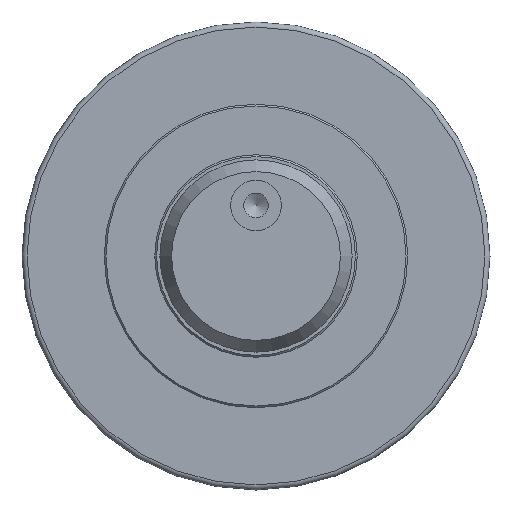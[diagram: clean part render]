
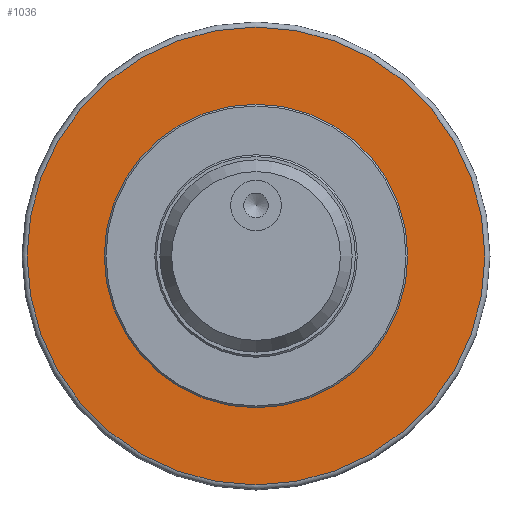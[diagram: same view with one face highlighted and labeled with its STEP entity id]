
A CAD part, left-side view. The second image highlights one B-rep face of the part: STEP entity #1036.
In plain terms, the highlighted planar face has unit normal (-1, 0, 0).
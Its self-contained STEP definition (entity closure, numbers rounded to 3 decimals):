
#29=FACE_BOUND('',#176,.T.);
#45=PLANE('',#1146);
#109=FACE_OUTER_BOUND('',#175,.T.);
#175=EDGE_LOOP('',(#747));
#176=EDGE_LOOP('',(#748));
#433=CIRCLE('',#1142,90.5);
#436=CIRCLE('',#1147,59.);
#477=VERTEX_POINT('',#1634);
#480=VERTEX_POINT('',#1644);
#579=EDGE_CURVE('',#477,#477,#433,.T.);
#583=EDGE_CURVE('',#480,#480,#436,.T.);
#747=ORIENTED_EDGE('',*,*,#579,.F.);
#748=ORIENTED_EDGE('',*,*,#583,.T.);
#1036=ADVANCED_FACE('',(#109,#29),#45,.T.);
#1142=AXIS2_PLACEMENT_3D('',#1636,#1293,#1294);
#1146=AXIS2_PLACEMENT_3D('',#1643,#1302,#1303);
#1147=AXIS2_PLACEMENT_3D('',#1645,#1304,#1305);
#1293=DIRECTION('center_axis',(1.,0.,0.));
#1294=DIRECTION('ref_axis',(0.,-1.,0.));
#1302=DIRECTION('center_axis',(-1.,0.,0.));
#1303=DIRECTION('ref_axis',(0.,0.,1.));
#1304=DIRECTION('center_axis',(1.,0.,0.));
#1305=DIRECTION('ref_axis',(0.,1.,0.));
#1634=CARTESIAN_POINT('',(-62.,0.,90.5));
#1636=CARTESIAN_POINT('Origin',(-62.,0.,0.));
#1643=CARTESIAN_POINT('Origin',(-62.,75.75,0.));
#1644=CARTESIAN_POINT('',(-62.,-59.,0.));
#1645=CARTESIAN_POINT('Origin',(-62.,0.,0.));
